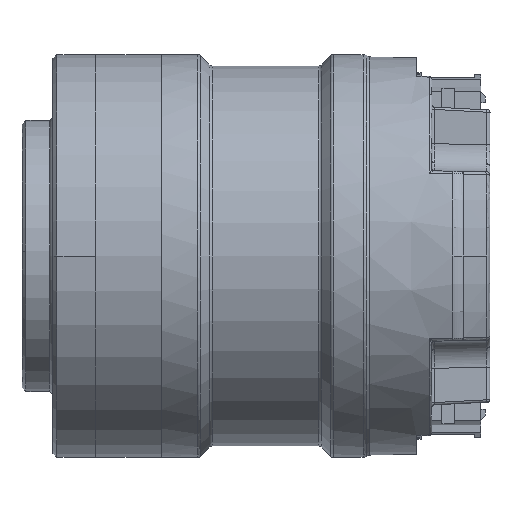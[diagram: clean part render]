
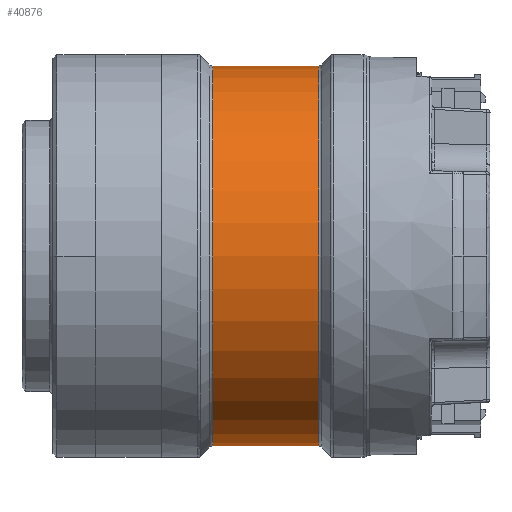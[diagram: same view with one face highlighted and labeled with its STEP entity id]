
A CAD part, left-side view. The second image highlights one B-rep face of the part: STEP entity #40876.
In plain terms, the highlighted cylindrical face has radius 24.5 mm (diameter 49 mm), a partial arc.
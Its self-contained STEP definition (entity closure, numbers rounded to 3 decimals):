
#2261 = CARTESIAN_POINT ( 'NONE',  ( 0., -12., 0. ) ) ;
#3237 = AXIS2_PLACEMENT_3D ( 'NONE', #33598, #27832, #8217 ) ;
#7128 = VERTEX_POINT ( 'NONE', #67115 ) ;
#7461 = DIRECTION ( 'NONE',  ( 1., 0., 0. ) ) ;
#8217 = DIRECTION ( 'NONE',  ( 1., 0., 0. ) ) ;
#12560 = EDGE_CURVE ( 'NONE', #58199, #68475, #80025, .T. ) ;
#19468 = CIRCLE ( 'NONE', #3237, 24.5 ) ;
#21257 = CARTESIAN_POINT ( 'NONE',  ( 0., -12., 24.5 ) ) ;
#21715 = DIRECTION ( 'NONE',  ( 0., 0., -1. ) ) ;
#21978 = AXIS2_PLACEMENT_3D ( 'NONE', #2261, #39995, #21715 ) ;
#22949 = FACE_OUTER_BOUND ( 'NONE', #51473, .T. ) ;
#27281 = EDGE_CURVE ( 'NONE', #68475, #7128, #19468, .T. ) ;
#27832 = DIRECTION ( 'NONE',  ( 0., 1., 0. ) ) ;
#28514 = VERTEX_POINT ( 'NONE', #48724 ) ;
#33147 = ORIENTED_EDGE ( 'NONE', *, *, #59714, .T. ) ;
#33598 = CARTESIAN_POINT ( 'NONE',  ( 0., -24.793, 0. ) ) ;
#39440 = CARTESIAN_POINT ( 'NONE',  ( 0., -11.107, 0. ) ) ;
#39995 = DIRECTION ( 'NONE',  ( 0., -1., 0. ) ) ;
#40876 = ADVANCED_FACE ( 'NONE', ( #22949 ), #71008, .T. ) ;
#42765 = VECTOR ( 'NONE', #44585, 1000. ) ;
#44325 = ORIENTED_EDGE ( 'NONE', *, *, #27281, .T. ) ;
#44585 = DIRECTION ( 'NONE',  ( 0., -1., 0. ) ) ;
#45199 = DIRECTION ( 'NONE',  ( 0., -1., 0. ) ) ;
#48724 = CARTESIAN_POINT ( 'NONE',  ( 0., -11.107, 24.5 ) ) ;
#49454 = ORIENTED_EDGE ( 'NONE', *, *, #71115, .F. ) ;
#49471 = LINE ( 'NONE', #21257, #80771 ) ;
#51473 = EDGE_LOOP ( 'NONE', ( #49454, #33147, #75455, #44325 ) ) ;
#57238 = CARTESIAN_POINT ( 'NONE',  ( 0., -12., -24.5 ) ) ;
#58199 = VERTEX_POINT ( 'NONE', #73083 ) ;
#59572 = AXIS2_PLACEMENT_3D ( 'NONE', #39440, #45199, #7461 ) ;
#59714 = EDGE_CURVE ( 'NONE', #28514, #58199, #63808, .T. ) ;
#63808 = CIRCLE ( 'NONE', #59572, 24.5 ) ;
#65024 = DIRECTION ( 'NONE',  ( 0., -1., 0. ) ) ;
#67115 = CARTESIAN_POINT ( 'NONE',  ( 0., -24.793, 24.5 ) ) ;
#68475 = VERTEX_POINT ( 'NONE', #74885 ) ;
#71008 = CYLINDRICAL_SURFACE ( 'NONE', #21978, 24.5 ) ;
#71115 = EDGE_CURVE ( 'NONE', #28514, #7128, #49471, .T. ) ;
#73083 = CARTESIAN_POINT ( 'NONE',  ( 0., -11.107, -24.5 ) ) ;
#74885 = CARTESIAN_POINT ( 'NONE',  ( 0., -24.793, -24.5 ) ) ;
#75455 = ORIENTED_EDGE ( 'NONE', *, *, #12560, .T. ) ;
#80025 = LINE ( 'NONE', #57238, #42765 ) ;
#80771 = VECTOR ( 'NONE', #65024, 1000. ) ;
